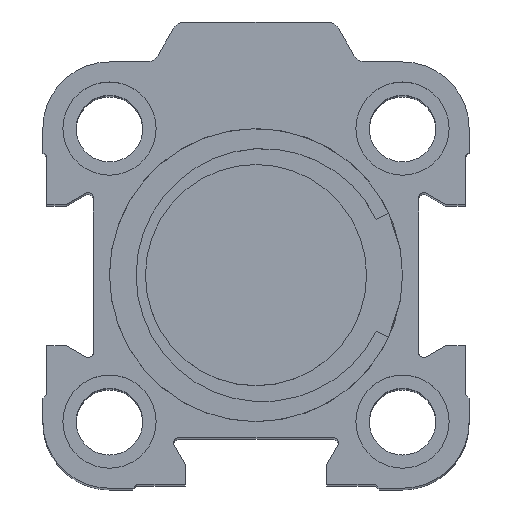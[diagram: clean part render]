
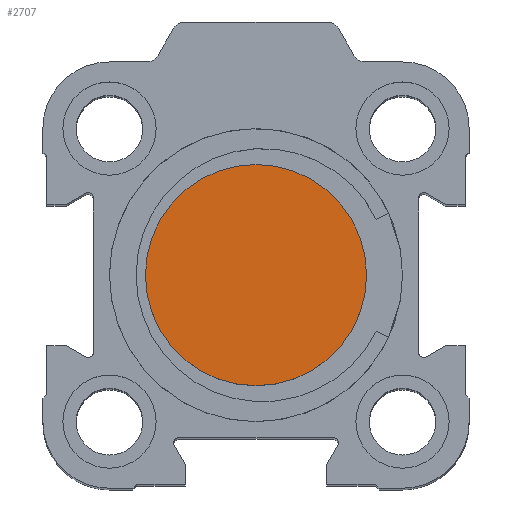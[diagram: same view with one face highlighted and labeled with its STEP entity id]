
A CAD part, top view. The second image highlights one B-rep face of the part: STEP entity #2707.
In plain terms, the highlighted planar face has unit normal (0, 0, 1).
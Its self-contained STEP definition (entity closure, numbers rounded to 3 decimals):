
#731=CARTESIAN_POINT('',(-10.201,37.167,37.5));
#732=VERTEX_POINT('',#731);
#748=CARTESIAN_POINT('',(-26.801,37.167,37.5));
#749=VERTEX_POINT('',#748);
#756=CARTESIAN_POINT('',(-18.501,37.167,37.5));
#757=DIRECTION('',(0.0,0.0,1.0));
#758=DIRECTION('',(1.0,0.0,0.0));
#759=AXIS2_PLACEMENT_3D('',#756,#757,#758);
#760=CIRCLE('',#759,8.3);
#761=EDGE_CURVE('',#732,#749,#760,.T.);
#2662=CARTESIAN_POINT('',(-18.501,37.167,37.5));
#2663=DIRECTION('',(0.0,0.0,1.0));
#2664=DIRECTION('',(1.0,0.0,0.0));
#2665=AXIS2_PLACEMENT_3D('',#2662,#2663,#2664);
#2666=CIRCLE('',#2665,8.3);
#2667=EDGE_CURVE('',#749,#732,#2666,.T.);
#2698=CARTESIAN_POINT('',(0.7,-2.301,37.5));
#2699=DIRECTION('',(0.0,0.0,1.0));
#2700=DIRECTION('',(1.0,0.0,0.0));
#2701=AXIS2_PLACEMENT_3D('',#2698,#2699,#2700);
#2702=PLANE('',#2701);
#2703=ORIENTED_EDGE('',*,*,#761,.T.);
#2704=ORIENTED_EDGE('',*,*,#2667,.T.);
#2705=EDGE_LOOP('',(#2703,#2704));
#2706=FACE_OUTER_BOUND('',#2705,.T.);
#2707=ADVANCED_FACE('',(#2706),#2702,.T.);
